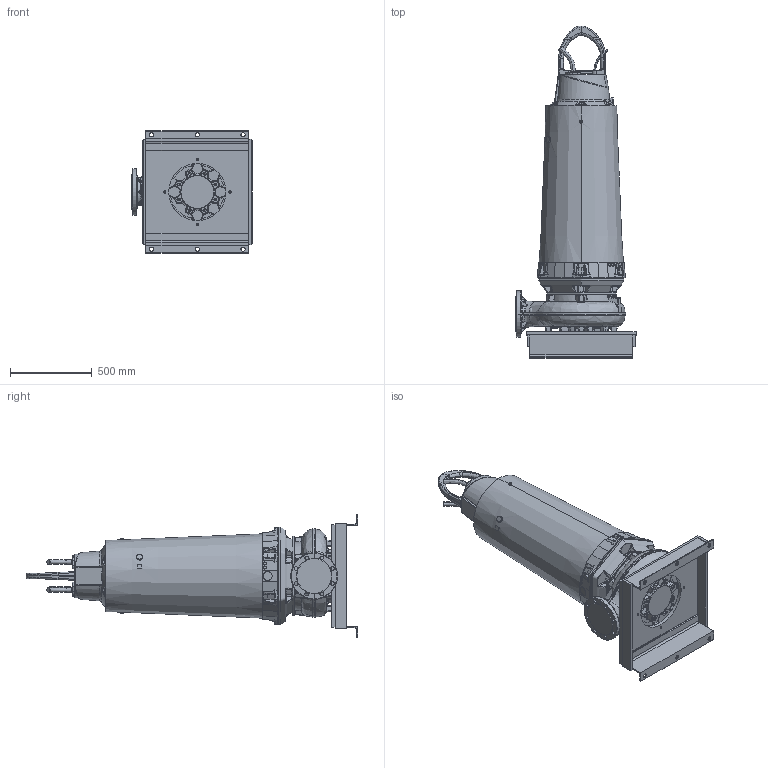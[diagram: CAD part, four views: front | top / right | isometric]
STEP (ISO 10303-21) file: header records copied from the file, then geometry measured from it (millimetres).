
FILE_DESCRIPTION (( 'STEP AP214' ), '1' );
FILE_NAME ('PE5_XFP150J-CH2_DRY_B_NG2.STEP', '2017-03-16T06:43:16', ( '' ), ( '' ), 'SwSTEP 2.0', 'SolidWorks 2017', '' );
FILE_SCHEMA (( 'AUTOMOTIVE_DESIGN' ));
Length unit declared in the file: millimetre
Products named in the file (1): PE5_XFP150J-CH2_DRY_B_NG2
Bounding box: 735 x 2032.47 x 750 mm (x, y, z)
Volume: 282548823.2 mm3; surface area: 4609276 mm2
Topology: 3 solids, 5 shells, 2480 faces, 6095 edges, 3555 vertices
Faces by surface type: bspline 863, cylinder 502, plane 477, torus 296, cone 272, sphere 70
Entity records: 187950 total; most frequent: CARTESIAN_POINT 109574, ORIENTED_EDGE 11952, DIRECTION 9106, EDGE_CURVE 5976, AXIS2_PLACEMENT_3D 3791, VERTEX_POINT 3555, EDGE_LOOP 2573, UNCERTAINTY_MEASURE_WITH_UNIT 2485
